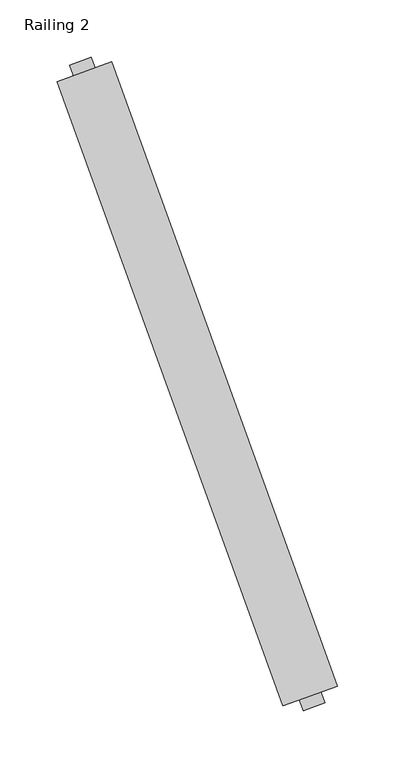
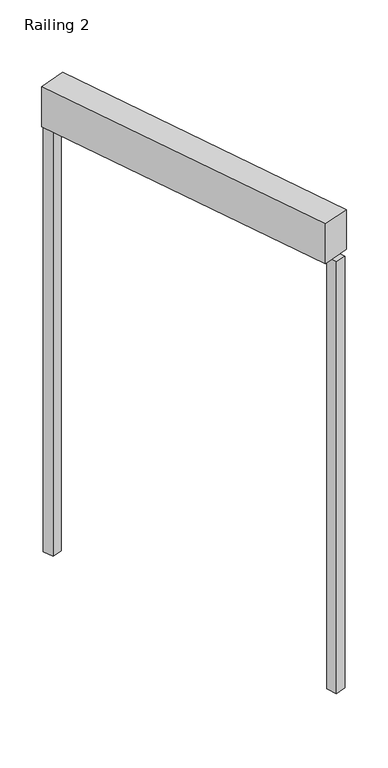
"""IFC4 building model written with IfcOpenShell, lengths in millimetres: railing geometry, Railing 2."""

from ifc_helpers import new_model, si_unit, frame, origin, place, context, project, spatial, polyline, outline, extrude, source, transform, mapped, element, save


def railing_2_c0bff7b1(model_context):
    return source(origin(), model_context, "Body", "SweptSolid", [
        extrude(outline(polyline([(36985.1372635, 12845.7746557), (37032.900543, 12863.0752085), (37230.4265401, 12317.7464265), (37182.6632606, 12300.4458737), (36985.1372635, 12845.7746557)])), frame((0.0, 0.0, 3323.8), z_axis=(0.0, 0.0, 1.0), x_axis=(1.0, 0.0, 0.0)), (0.0, 0.0, 1.0), 76.2),
        extrude(outline(polyline([(37193.7370593, 12315.0927499), (37212.5415001, 12321.9039911), (37219.3527414, 12303.0995504), (37200.5483006, 12296.2883091), (37193.7370593, 12315.0927499)])), frame((0.0, 0.0, 2500.0), z_axis=(0.0, 0.0, 1.0), x_axis=(1.0, 0.0, 0.0)), (0.0, 0.0, 1.0), 823.8),
        extrude(outline(polyline([(36996.2110622, 12860.4215318), (37015.015503, 12867.2327731), (37021.8267443, 12848.4283324), (37003.0223035, 12841.6170911), (36996.2110622, 12860.4215318)])), frame((0.0, 0.0, 2500.0), z_axis=(0.0, 0.0, 1.0), x_axis=(1.0, 0.0, 0.0)), (0.0, 0.0, 1.0), 823.8),
    ])


if __name__ == "__main__":
    model = new_model("IFC4")
    model_context = context("Model", 3, world=origin())
    ifc_project = project(units=[si_unit("LENGTHUNIT", "METRE", prefix="MILLI")], contexts=[model_context])
    site = spatial("IfcSite", under=ifc_project)
    building = spatial("IfcBuilding", under=site)
    placement = place(None, origin())
    railing_2_shape = railing_2_c0bff7b1(model_context)
    element("IfcRailing", 1, ObjectType="Railing 2", at=placement, inside=building, context=model_context, shape_type="MappedRepresentation", body=[
        mapped(railing_2_shape, transform((0.0, 0.0, 0.0), x_axis=(1.0, 0.0, 0.0), y_axis=(0.0, 1.0, 0.0), z_axis=(0.0, 0.0, 1.0))),
    ])
    save(model, "model.ifc")
